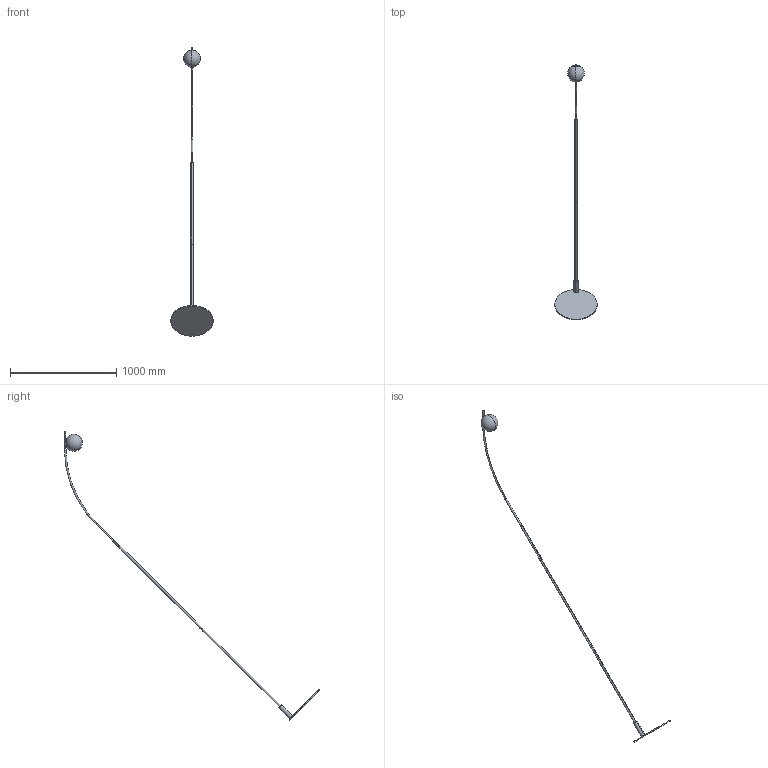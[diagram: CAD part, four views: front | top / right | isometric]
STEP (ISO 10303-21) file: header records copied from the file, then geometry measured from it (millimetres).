
FILE_DESCRIPTION((''),'2;1');
FILE_NAME('HASTAR_LUNO_SW0001','2026-02-03T17:12:25',('Piccioli'),(''),'CREO PARAMETRIC BY PTC INC, 2025010','CREO PARAMETRIC BY PTC INC, 2025010','');
FILE_SCHEMA(('CONFIG_CONTROL_DESIGN'));
Length unit declared in the file: millimetre
Products named in the file (1): HASTAR_LUNO_SW0001
Bounding box: 400 x 2404.89 x 2717.29 mm (x, y, z)
Surface area: 566170.3 mm2 (no closed solid volume)
Topology: 0 solids, 13 shells, 42 faces, 138 edges, 93 vertices
Faces by surface type: cylinder 19, cone 7, plane 6, sphere 6, torus 4
Entity records: 3125 total; most frequent: CARTESIAN_POINT 1946, DIRECTION 246, ORIENTED_EDGE 204, EDGE_CURVE 136, AXIS2_PLACEMENT_3D 104, VERTEX_POINT 93, CIRCLE 62, EDGE_LOOP 42
